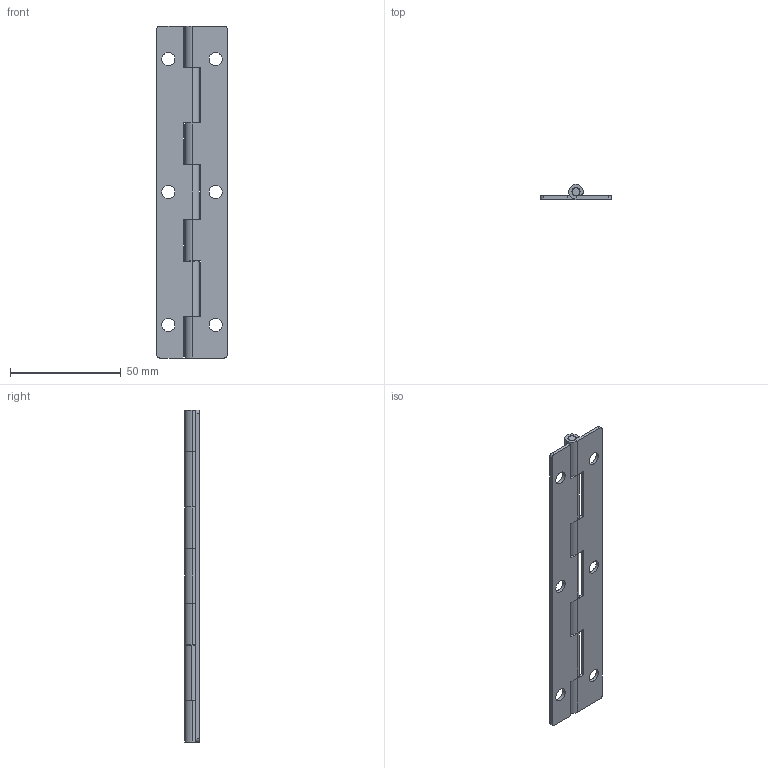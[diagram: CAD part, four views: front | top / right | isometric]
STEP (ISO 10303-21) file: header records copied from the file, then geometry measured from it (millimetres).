
FILE_DESCRIPTION (( 'STEP AP203' ), '1' );
FILE_NAME ('CL253F3D001+CL253-5蝓蟈.STEP', '2024-02-23T02:52:18', ( 'SJ' ), ( '' ), 'SwSTEP 2.0', 'SolidWorks 2020', '' );
FILE_SCHEMA (( 'CONFIG_CONTROL_DESIGN' ));
Length unit declared in the file: millimetre
Products named in the file (4): CL253-5蝓蟈珜; CL253-5蛌粣_种赽; CL253F3D001+CL253-5蝓蟈; CL253-5蝓蟈珜2
Assembly tree (3 placements, depth 2):
  CL253F3D001+CL253-5蝓蟈
    CL253-5蝓蟈珜2
    CL253-5蝓蟈珜
    CL253-5蛌粣_种赽
Bounding box: 32 x 6.6 x 150 mm (x, y, z)
Volume: 10432.5 mm3; surface area: 15168.5 mm2
Topology: 3 solids, 3 shells, 176 faces, 503 edges, 333 vertices
Faces by surface type: cylinder 79, plane 76, cone 21
Entity records: 6282 total; most frequent: CARTESIAN_POINT 1126, DIRECTION 1028, ORIENTED_EDGE 1006, EDGE_CURVE 503, AXIS2_PLACEMENT_3D 379, VERTEX_POINT 333, LINE 270, VECTOR 270
